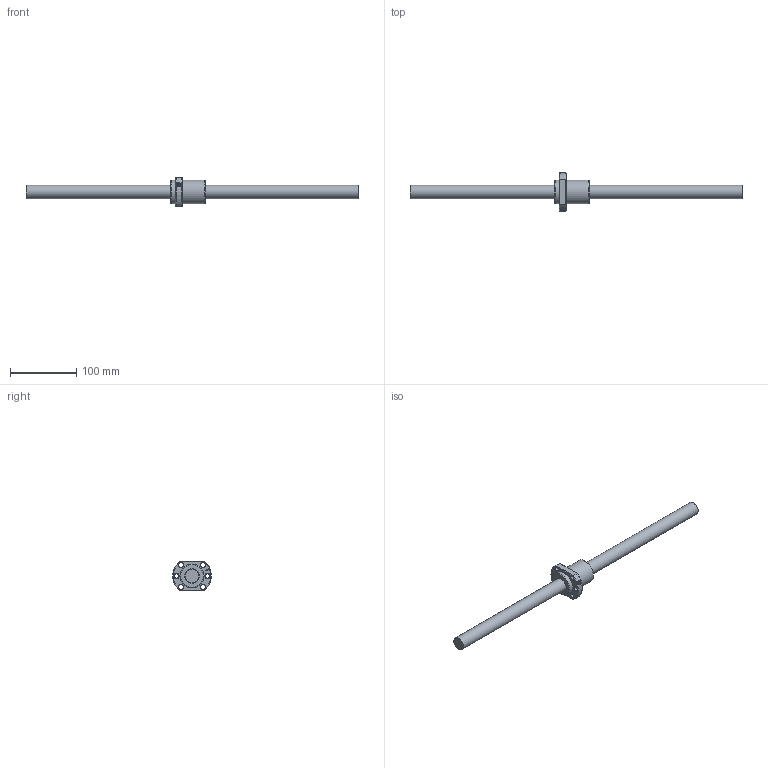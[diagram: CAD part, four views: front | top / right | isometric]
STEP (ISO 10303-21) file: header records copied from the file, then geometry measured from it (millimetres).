
FILE_DESCRIPTION (( 'STEP AP203' ), '1' );
FILE_NAME ('SFA2010-3.8.step', '2024-05-07T07:25:09', ( '' ), ( '' ), 'SwSTEP 2.0', 'SolidWorks 2022', '' );
FILE_SCHEMA (( 'CONFIG_CONTROL_DESIGN' ));
Length unit declared in the file: millimetre
Products named in the file (1): SFA2010-3.8
Bounding box: 500 x 58 x 44 mm (x, y, z)
Volume: 200213.3 mm3; surface area: 46673.3 mm2
Topology: 2 solids, 2 shells, 56 faces, 134 edges, 84 vertices
Faces by surface type: cylinder 19, plane 13, cone 13, torus 6, bspline 5
Full cylindrical faces by diameter (mm): 2 x1, 5 x5, 6.6 x6, 20 x1, 22.1 x1, 36 x2
Entity records: 3178 total; most frequent: CARTESIAN_POINT 2091, DIRECTION 198, ORIENTED_EDGE 172, EDGE_LOOP 96, AXIS2_PLACEMENT_3D 91, EDGE_CURVE 86, VERTEX_POINT 70, FACE_OUTER_BOUND 65
